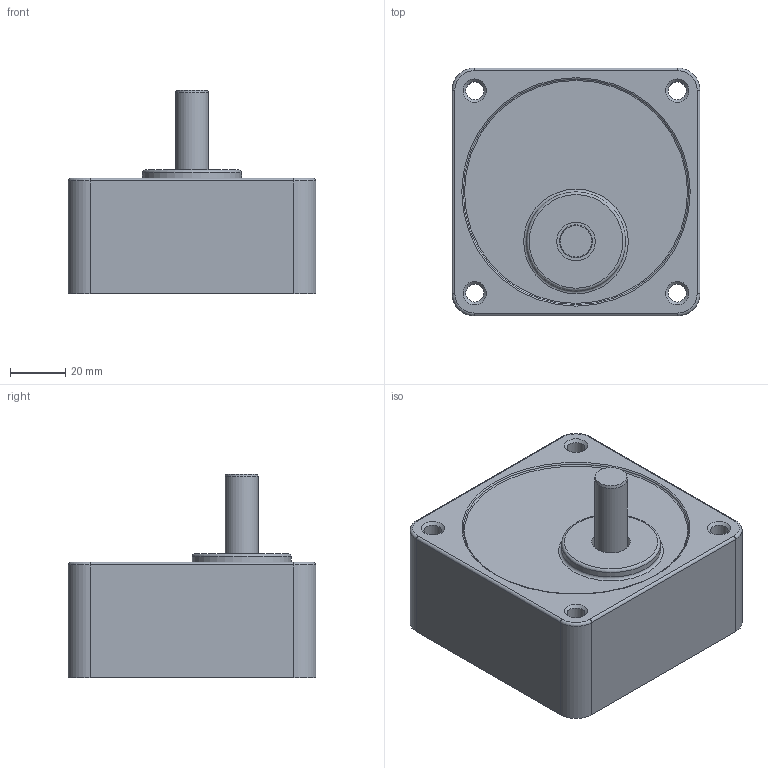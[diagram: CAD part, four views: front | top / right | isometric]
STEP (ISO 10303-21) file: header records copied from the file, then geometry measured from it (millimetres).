
FILE_DESCRIPTION((''),'2;1');
FILE_NAME('D:\STP파일\GEAR HEAD\40W\S9SB3~18.stp','2013-05-20T19:15:51',('leebh'),(''),'Autodesk Inventor 2011','Autodesk Inventor 2011','');
FILE_SCHEMA(('AUTOMOTIVE_DESIGN { 1 0 10303 214 1 1 1 1 }'));
Length unit declared in the file: millimetre
Products named in the file (1): S9I90G-T1
Bounding box: 90 x 90 x 74 mm (x, y, z)
Volume: 292249.4 mm3; surface area: 38040.8 mm2
Topology: 1 solids, 1 shells, 42 faces, 86 edges, 52 vertices
Faces by surface type: cylinder 17, plane 12, torus 8, cone 5
Full cylindrical faces by diameter (mm): 6.5 x4, 9 x1, 12 x1, 14 x1, 36 x1, 83 x1
Entity records: 1062 total; most frequent: DIRECTION 202, CARTESIAN_POINT 163, ORIENTED_EDGE 136, AXIS2_PLACEMENT_3D 91, EDGE_LOOP 74, EDGE_CURVE 68, VERTEX_POINT 52, CIRCLE 48
